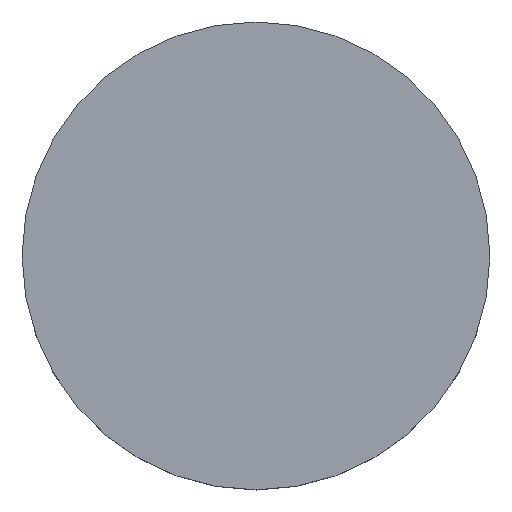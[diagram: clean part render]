
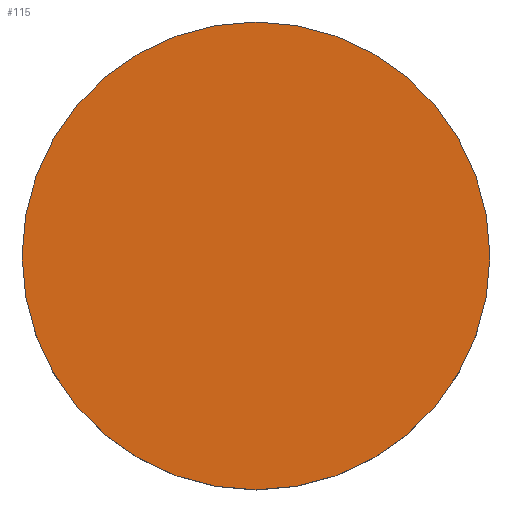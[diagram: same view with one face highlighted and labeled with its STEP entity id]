
A CAD part, top view. The second image highlights one B-rep face of the part: STEP entity #115.
In plain terms, the highlighted planar face has unit normal (0, 0, 1).
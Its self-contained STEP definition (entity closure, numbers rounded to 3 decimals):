
#115=ADVANCED_FACE('',(#129),#126,.T.);
#126=PLANE('',#242);
#129=FACE_OUTER_BOUND('',#139,.T.);
#139=EDGE_LOOP('',(#151,#152));
#151=ORIENTED_EDGE('',*,*,#203,.F.);
#152=ORIENTED_EDGE('',*,*,#204,.F.);
#191=VERTEX_POINT('',#329);
#192=VERTEX_POINT('',#330);
#203=EDGE_CURVE('',#191,#192,#223,.T.);
#204=EDGE_CURVE('',#192,#191,#224,.T.);
#223=CIRCLE('',#240,14.);
#224=CIRCLE('',#241,14.);
#240=AXIS2_PLACEMENT_3D('',#328,#269,#270);
#241=AXIS2_PLACEMENT_3D('',#331,#271,#272);
#242=AXIS2_PLACEMENT_3D('',#332,#273,#274);
#269=DIRECTION('',(0.,0.,-1.));
#270=DIRECTION('',(-1.,0.,0.));
#271=DIRECTION('',(0.,0.,-1.));
#272=DIRECTION('',(1.,0.,0.));
#273=DIRECTION('',(0.,0.,1.));
#274=DIRECTION('',(1.,0.,0.));
#328=CARTESIAN_POINT('',(0.,0.,5.));
#329=CARTESIAN_POINT('',(0.,14.,5.));
#330=CARTESIAN_POINT('',(0.,-14.,5.));
#331=CARTESIAN_POINT('',(0.,0.,5.));
#332=CARTESIAN_POINT('',(0.,0.,5.));
